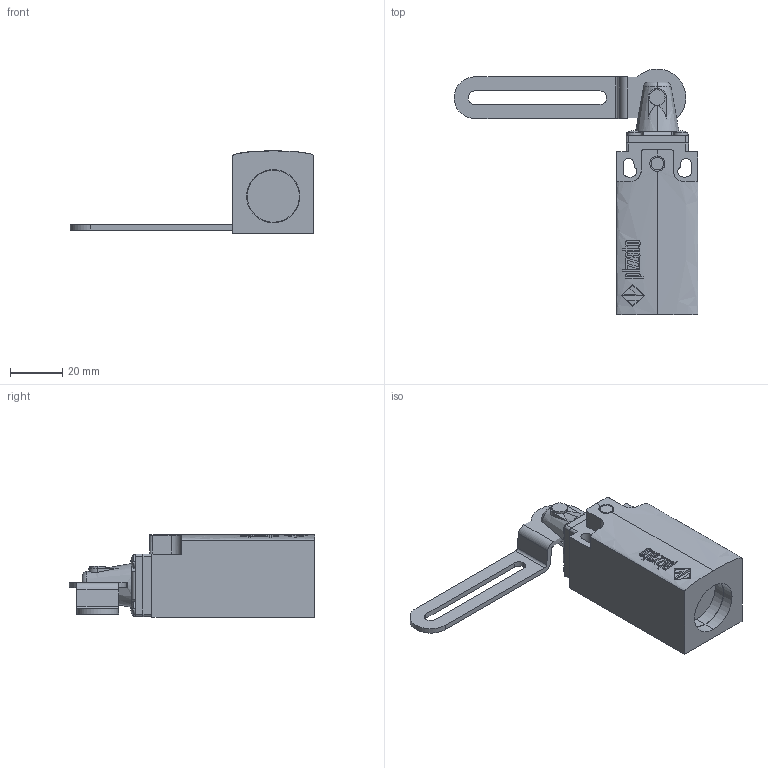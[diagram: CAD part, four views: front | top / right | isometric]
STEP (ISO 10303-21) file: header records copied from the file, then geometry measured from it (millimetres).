
FILE_DESCRIPTION (( 'STEP AP203' ), '1' );
FILE_NAME ('ZF_STEP_FM_xC3.STEP', '2024-01-09T16:44:28', ( '' ), ( '' ), 'SwSTEP 2.0', 'SolidWorks 2020', '' );
FILE_SCHEMA (( 'CONFIG_CONTROL_DESIGN' ));
Length unit declared in the file: millimetre
Products named in the file (6): Pizzato_LEC3; ZF_STEP_VF_TEC3; Pizzato_Custodia_FM_3dweb; ZF_STEP_FM_xC3; Pizzato_Supporto_TECx
Assembly tree (5 placements, depth 3):
  ZF_STEP_FM_xC3
    Pizzato_Custodia_FM_3dweb
      Pizzato_Custodia_FM_3dweb
    ZF_STEP_VF_TEC3
      Pizzato_Supporto_TECx
      Pizzato_LEC3
Bounding box: 93.6 x 94.37 x 31.6 mm (x, y, z)
Volume: 64484.1 mm3; surface area: 18375.4 mm2
Topology: 3 solids, 3 shells, 288 faces, 761 edges, 503 vertices
Faces by surface type: plane 168, cylinder 62, bspline 45, sphere 8, torus 3, cone 2
Entity records: 10209 total; most frequent: CARTESIAN_POINT 2809, ORIENTED_EDGE 1522, DIRECTION 1227, EDGE_CURVE 761, VERTEX_POINT 503, VECTOR 445, LINE 445, AXIS2_PLACEMENT_3D 391
